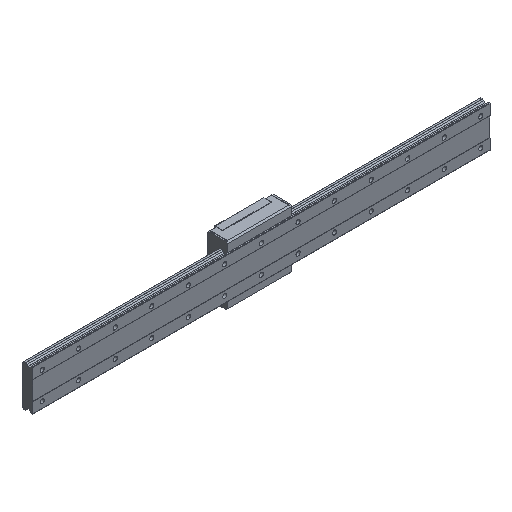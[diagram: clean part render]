
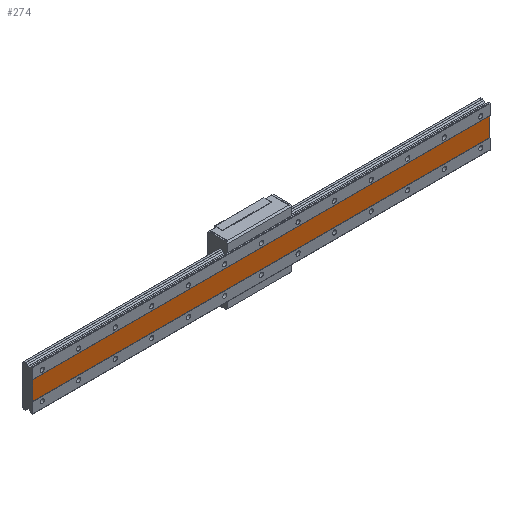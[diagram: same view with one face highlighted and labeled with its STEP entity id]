
A CAD part, isometric view. The second image highlights one B-rep face of the part: STEP entity #274.
In plain terms, the highlighted planar face has unit normal (0, -1, 0).
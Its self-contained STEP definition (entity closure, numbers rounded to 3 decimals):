
#274 = ADVANCED_FACE( '', ( #783 ), #784, .T. );
#783 = FACE_OUTER_BOUND( '', #1453, .T. );
#784 = PLANE( '', #1454 );
#1453 = EDGE_LOOP( '', ( #2891, #2892, #2893, #2894 ) );
#1454 = AXIS2_PLACEMENT_3D( '', #2895, #2896, #2897 );
#2891 = ORIENTED_EDGE( '', *, *, #4484, .T. );
#2892 = ORIENTED_EDGE( '', *, *, #4485, .F. );
#2893 = ORIENTED_EDGE( '', *, *, #4486, .T. );
#2894 = ORIENTED_EDGE( '', *, *, #4482, .T. );
#2895 = CARTESIAN_POINT( '', ( -20., 0.5, -20.55 ) );
#2896 = DIRECTION( '', ( 0., -1., 0. ) );
#2897 = DIRECTION( '', ( 0., 0., -1. ) );
#4482 = EDGE_CURVE( '', #5471, #5469, #5472, .T. );
#4484 = EDGE_CURVE( '', #5469, #5474, #5475, .T. );
#4485 = EDGE_CURVE( '', #5476, #5474, #5477, .T. );
#4486 = EDGE_CURVE( '', #5476, #5471, #5478, .T. );
#5469 = VERTEX_POINT( '', #6838 );
#5471 = VERTEX_POINT( '', #6840 );
#5472 = LINE( '', #6841, #6842 );
#5474 = VERTEX_POINT( '', #6844 );
#5475 = LINE( '', #6845, #6846 );
#5476 = VERTEX_POINT( '', #6847 );
#5477 = LINE( '', #6848, #6849 );
#5478 = LINE( '', #6850, #6851 );
#6838 = CARTESIAN_POINT( '', ( 980., 0.5, -20.55 ) );
#6840 = CARTESIAN_POINT( '', ( -20., 0.5, -20.55 ) );
#6841 = CARTESIAN_POINT( '', ( -20., 0.5, -20.55 ) );
#6842 = VECTOR( '', #8524, 1. );
#6844 = CARTESIAN_POINT( '', ( 980., 0.5, 20.55 ) );
#6845 = CARTESIAN_POINT( '', ( 980., 0.5, 20.55 ) );
#6846 = VECTOR( '', #8528, 1. );
#6847 = CARTESIAN_POINT( '', ( -20., 0.5, 20.55 ) );
#6848 = CARTESIAN_POINT( '', ( -20., 0.5, 20.55 ) );
#6849 = VECTOR( '', #8529, 1. );
#6850 = CARTESIAN_POINT( '', ( -20., 0.5, 20.55 ) );
#6851 = VECTOR( '', #8530, 1. );
#8524 = DIRECTION( '', ( 1., 0., 0. ) );
#8528 = DIRECTION( '', ( 0., 0., 1. ) );
#8529 = DIRECTION( '', ( 1., 0., 0. ) );
#8530 = DIRECTION( '', ( 0., 0., -1. ) );
